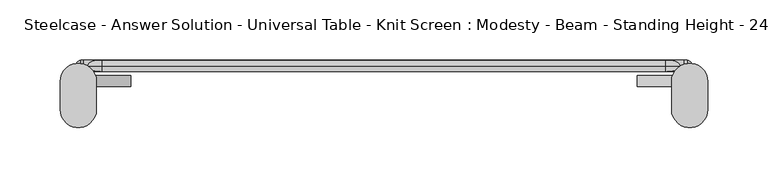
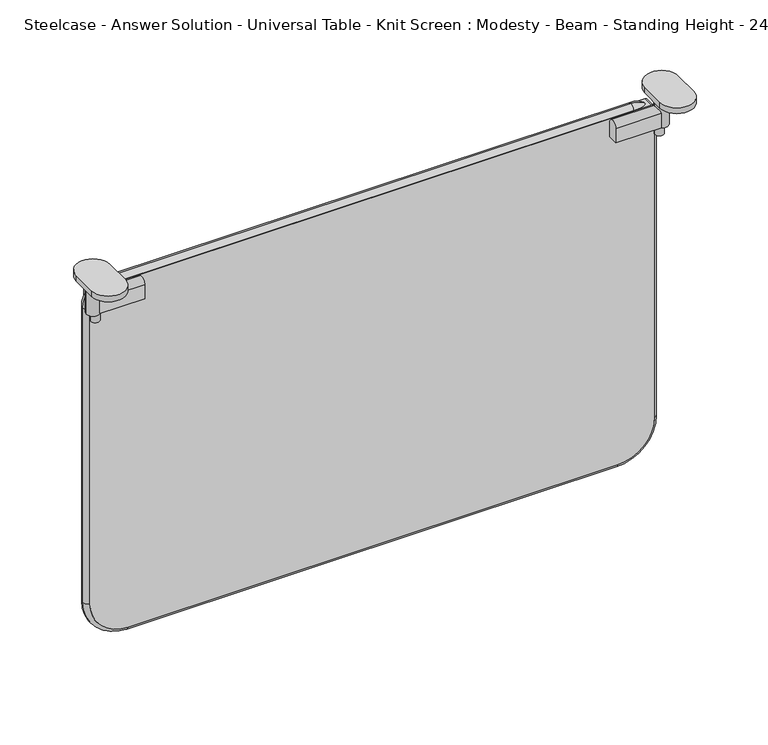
"""IFC4 building model written with IfcOpenShell, lengths in millimetres: furniture geometry, Steelcase - Answer Solution - Universal Table - Knit Screen : Modesty - Beam - Standing Height - 24in."""

from ifc_helpers import new_model, si_unit, point, frame, frame_2d, origin, place, context, project, spatial, polyline, circle_curve, ellipse_curve, trimmed, segment, composite_curve, outline, extrude, source, transform, mapped, element, save
from ifc_brep_helpers import plane_surface, cylinder_surface, revolved_surface, advanced_brep


def steelcase_answer_solution_universal_table_knit_screen_812e1500(model_context):
    return source(origin(), model_context, "Body", "SolidModel", [
        extrude(outline(composite_curve([segment(polyline([(-29.128946, 747.6716837), (-29.128946, 761.0329841)]), True, "CONTINUOUS"), segment(trimmed(circle_curve(frame_2d((-24.4350465, 761.0329841)), 4.6938995), [point((-29.128946, 761.0329841))], [point((-19.7411469, 761.0329841))], False, "CARTESIAN"), True, "CONTINUOUS"), segment(polyline([(-19.7411469, 761.0329841), (-19.7411469, 747.6716837), (-29.128946, 747.6716837)]), True, "CONTINUOUS")], self_intersect=False)), frame((511.8167228, 0.0, 0.0), z_axis=(1.0, 0.0, 0.0), x_axis=(0.0, 1.0, 0.0)), (0.0, 0.0, 1.0), 43.5285515),
        extrude(outline(composite_curve([segment(trimmed(circle_curve(frame_2d((553.4143327, -24.4352196)), 3.96875), [point((557.3830827, -24.4352196))], [point((549.4455827, -24.4352196))], False, "CARTESIAN"), True, "CONTINUOUS"), segment(trimmed(circle_curve(frame_2d((553.4143327, -24.4352196)), 3.96875), [point((549.4455827, -24.4352196))], [point((557.3830827, -24.4352196))], False, "CARTESIAN"), True, "CONTINUOUS")], self_intersect=False)), frame((0.0, 0.0, 739.5915626), z_axis=(0.0, 0.0, 1.0), x_axis=(1.0, 0.0, 0.0)), (0.0, 0.0, 1.0), 8.0801211),
        extrude(outline(composite_curve([segment(trimmed(circle_curve(frame_2d((555.3452743, -24.4352196)), 5.8800133), [point((561.2252876, -24.4352196))], [point((549.465261, -24.4352196))], False, "CARTESIAN"), True, "CONTINUOUS"), segment(trimmed(circle_curve(frame_2d((555.3452743, -24.4352196)), 5.8800133), [point((549.465261, -24.4352196))], [point((561.2252876, -24.4352196))], False, "CARTESIAN"), True, "CONTINUOUS")], self_intersect=False)), frame((0.0, 0.0, 747.6716837), z_axis=(0.0, 0.0, 1.0), x_axis=(1.0, 0.0, 0.0)), (0.0, 0.0, 1.0), 34.3007611),
        extrude(outline(composite_curve([segment(polyline([(570.401332, -24.6349615), (570.401332, -48.0866189)]), True, "CONTINUOUS"), segment(trimmed(circle_curve(frame_2d((555.345565, -48.0866189)), 15.0557671), [point((570.401332, -48.0866189))], [point((540.2897979, -48.0866189))], False, "CARTESIAN"), True, "CONTINUOUS"), segment(polyline([(540.2897979, -48.0866189), (540.2897979, -24.6349615)]), True, "CONTINUOUS"), segment(trimmed(circle_curve(frame_2d((555.345565, -24.6349615)), 15.0557671), [point((540.2897979, -24.6349615))], [point((570.401332, -24.6349615))], False, "CARTESIAN"), True, "CONTINUOUS")], self_intersect=False)), frame((0.0, 0.0, 781.9724448), z_axis=(0.0, 0.0, 1.0), x_axis=(1.0, 0.0, 0.0)), (0.0, 0.0, 1.0), 5.4275552),
        extrude(outline(composite_curve([segment(polyline([(-29.128946, 747.6716837), (-29.128946, 761.0329841)]), True, "CONTINUOUS"), segment(trimmed(circle_curve(frame_2d((-24.4350465, 761.0329841)), 4.6938995), [point((-29.128946, 761.0329841))], [point((-19.7411469, 761.0329841))], False, "CARTESIAN"), True, "CONTINUOUS"), segment(polyline([(-19.7411469, 761.0329841), (-19.7411469, 747.6716837), (-29.128946, 747.6716837)]), True, "CONTINUOUS")], self_intersect=False)), frame((47.6108911, 0.0, 0.0), z_axis=(1.0, 0.0, 0.0), x_axis=(0.0, 1.0, 0.0)), (0.0, 0.0, 1.0), 43.5285515),
        extrude(outline(composite_curve([segment(trimmed(circle_curve(frame_2d((49.5418327, -24.4352196)), 3.96875), [point((45.5730827, -24.4352196))], [point((53.5105827, -24.4352196))], False, "CARTESIAN"), True, "CONTINUOUS"), segment(trimmed(circle_curve(frame_2d((49.5418327, -24.4352196)), 3.96875), [point((53.5105827, -24.4352196))], [point((45.5730827, -24.4352196))], False, "CARTESIAN"), True, "CONTINUOUS")], self_intersect=False)), frame((0.0, 0.0, 739.5915626), z_axis=(0.0, 0.0, 1.0), x_axis=(1.0, 0.0, 0.0)), (0.0, 0.0, 1.0), 8.0801211),
        extrude(outline(composite_curve([segment(trimmed(circle_curve(frame_2d((47.6108911, -24.4352196)), 5.8800133), [point((41.7308778, -24.4352196))], [point((53.4909043, -24.4352196))], False, "CARTESIAN"), True, "CONTINUOUS"), segment(trimmed(circle_curve(frame_2d((47.6108911, -24.4352196)), 5.8800133), [point((53.4909043, -24.4352196))], [point((41.7308778, -24.4352196))], False, "CARTESIAN"), True, "CONTINUOUS")], self_intersect=False)), frame((0.0, 0.0, 747.6716837), z_axis=(0.0, 0.0, 1.0), x_axis=(1.0, 0.0, 0.0)), (0.0, 0.0, 1.0), 34.3007611),
        extrude(outline(composite_curve([segment(trimmed(circle_curve(frame_2d((47.6106004, -24.6349615)), 15.0557671), [point((32.5548333, -24.6349615))], [point((62.6663674, -24.6349615))], False, "CARTESIAN"), True, "CONTINUOUS"), segment(polyline([(62.6663674, -24.6349615), (62.6663674, -48.0866189)]), True, "CONTINUOUS"), segment(trimmed(circle_curve(frame_2d((47.6106004, -48.0866189)), 15.0557671), [point((62.6663674, -48.0866189))], [point((32.5548333, -48.0866189))], False, "CARTESIAN"), True, "CONTINUOUS"), segment(polyline([(32.5548333, -48.0866189), (32.5548333, -24.6349615)]), True, "CONTINUOUS")], self_intersect=False)), frame((0.0, 0.0, 781.9724448), z_axis=(0.0, 0.0, 1.0), x_axis=(1.0, 0.0, 0.0)), (0.0, 0.0, 1.0), 5.4275552),
        extrude(outline(composite_curve([segment(trimmed(circle_curve(frame_2d((465.8734529, 520.3969049)), 33.0004615), [point((432.8729913, 520.3969049))], [point((465.8734529, 553.3973664))], False, "CARTESIAN"), True, "CONTINUOUS"), segment(polyline([(465.8734529, 553.3973664), (759.2143507, 553.3973664)]), True, "CONTINUOUS"), segment(trimmed(circle_curve(frame_2d((759.2143507, 550.5924906)), 2.8048758), [point((759.2143507, 553.3973664))], [point((762.0192266, 550.5924906))], False, "CARTESIAN"), True, "CONTINUOUS"), segment(polyline([(762.0192266, 550.5924906), (762.0192266, 51.8743664)]), True, "CONTINUOUS"), segment(trimmed(circle_curve(frame_2d((759.7036591, 51.8743664)), 2.3155675), [point((762.0192266, 51.8743664))], [point((759.7036591, 49.5587989))], False, "CARTESIAN"), True, "CONTINUOUS"), segment(polyline([(759.7036591, 49.5587989), (466.7900738, 49.5587989)]), True, "CONTINUOUS"), segment(trimmed(circle_curve(frame_2d((466.7900738, 83.4758814)), 33.9170825), [point((466.7900738, 49.5587989))], [point((432.8729913, 83.4758814))], False, "CARTESIAN"), True, "CONTINUOUS"), segment(polyline([(432.8729913, 83.4758814), (432.8729913, 520.3969049)]), True, "CONTINUOUS")], self_intersect=False)), frame((0.0, -16.5783031, 0.0), z_axis=(0.0, 1.0, 0.0), x_axis=(0.0, 0.0, 1.0)), (0.0, 0.0, 1.0), 9.6878455),
        advanced_brep(
        [(45.5730839, -11.7343804, 744.5906591), (66.9873664, -11.7343804, 766.0049416), (66.9873664, -6.8904577, 762.0192266), (49.5587989, -6.8904577, 744.5906591), (49.5587989, -16.5783031, 744.5906591), (66.9873664, -16.5783031, 762.0192266), (49.5587989, -6.8904577, 466.7900738), (45.5730839, -11.7343804, 466.7900738), (49.5587989, -16.5783031, 466.7900738), (83.4758814, -11.7343804, 428.8872763), (83.4758814, -6.8904577, 432.8729913), (83.4758814, -16.5783031, 432.8729913), (520.3969049, -6.8904577, 432.8729913), (520.3969049, -11.7343804, 428.8872763), (520.3969049, -16.5783031, 432.8729913), (557.3830815, -11.7343804, 465.8734529), (553.3973664, -6.8904577, 465.8734529), (553.3973664, -16.5783031, 465.8734529), (553.3973664, -6.8904577, 744.1013507), (557.3830815, -11.7343804, 744.1013507), (553.3973664, -16.5783031, 744.1013507), (535.4794906, -11.7343804, 766.0049416), (535.4794906, -6.8904577, 762.0192266), (535.4794906, -16.5783031, 762.0192266)],
        [
            (0, 1, circle_curve(frame((66.9873664, -11.7343804, 744.5906591), z_axis=(0.0, 1.0, 0.0), x_axis=(0.0, 0.0, 1.0)), 21.4142825)),
            (1, 2, circle_curve(frame((66.9873664, -11.7343804, 761.0686238), z_axis=(-1.0, 0.0, 0.0), x_axis=(0.0, 0.0, 1.0)), 4.9363178)),
            (2, 3, circle_curve(frame((66.9873664, -6.8904577, 744.5906591), z_axis=(0.0, -1.0, 0.0), x_axis=(0.0, 0.0, 1.0)), 17.4285675)),
            (3, 0, circle_curve(frame((50.5094016, -11.7343804, 744.5906591), z_axis=(0.0, 0.0, 1.0), x_axis=(-1.0, 0.0, 0.0)), 4.9363178)),
            (4, 5, circle_curve(frame((66.9873664, -16.5783031, 744.5906591), z_axis=(0.0, 1.0, 0.0), x_axis=(0.0, 0.0, 1.0)), 17.4285675)),
            (5, 1, circle_curve(frame((66.9873664, -11.7343804, 761.0686238), z_axis=(-1.0, 0.0, 0.0), x_axis=(0.0, 0.0, 1.0)), 4.9363178)),
            (0, 4, circle_curve(frame((50.5094016, -11.7343804, 744.5906591), z_axis=(0.0, 0.0, 1.0), x_axis=(-1.0, 0.0, 0.0)), 4.9363178)),
            (2, 5),
            (4, 3),
            (3, 6),
            (6, 7, circle_curve(frame((50.5094016, -11.7343804, 466.7900738), z_axis=(0.0, 0.0, 1.0), x_axis=(-1.0, 0.0, 0.0)), 4.9363178)),
            (7, 0),
            (7, 8, circle_curve(frame((50.5094016, -11.7343804, 466.7900738), z_axis=(0.0, 0.0, 1.0), x_axis=(-1.0, 0.0, 0.0)), 4.9363178)),
            (8, 4),
            (8, 6),
            (9, 7, circle_curve(frame((83.4758814, -11.7343804, 466.7900738), z_axis=(0.0, 1.0, 0.0), x_axis=(-1.0, 0.0, 0.0)), 37.9027975)),
            (6, 10, circle_curve(frame((83.4758814, -6.8904577, 466.7900738), z_axis=(0.0, -1.0, 0.0), x_axis=(-1.0, 0.0, 0.0)), 33.9170825)),
            (10, 9, circle_curve(frame((83.4758814, -11.7343804, 433.823594), z_axis=(-1.0, 0.0, 0.0), x_axis=(0.0, 0.0, -1.0)), 4.9363178)),
            (11, 8, circle_curve(frame((83.4758814, -16.5783031, 466.7900738), z_axis=(0.0, 1.0, 0.0), x_axis=(-1.0, 0.0, 0.0)), 33.9170825)),
            (9, 11, circle_curve(frame((83.4758814, -11.7343804, 433.823594), z_axis=(-1.0, 0.0, 0.0), x_axis=(0.0, 0.0, -1.0)), 4.9363178)),
            (11, 10),
            (10, 12),
            (12, 13, circle_curve(frame((520.3969049, -11.7343804, 433.823594), z_axis=(-1.0, 0.0, 0.0), x_axis=(0.0, 0.0, -1.0)), 4.9363178)),
            (13, 9),
            (13, 14, circle_curve(frame((520.3969049, -11.7343804, 433.823594), z_axis=(-1.0, 0.0, 0.0), x_axis=(0.0, 0.0, -1.0)), 4.9363178)),
            (14, 11),
            (14, 12),
            (15, 13, circle_curve(frame((520.3969049, -11.7343804, 465.8734529), z_axis=(0.0, 1.0, 0.0), x_axis=(0.0, 0.0, -1.0)), 36.9861766)),
            (12, 16, circle_curve(frame((520.3969049, -6.8904577, 465.8734529), z_axis=(0.0, -1.0, 0.0), x_axis=(0.0, 0.0, -1.0)), 33.0004615)),
            (16, 15, circle_curve(frame((552.4467637, -11.7343804, 465.8734529), z_axis=(0.0, 0.0, -1.0), x_axis=(1.0, 0.0, 0.0)), 4.9363178)),
            (17, 14, circle_curve(frame((520.3969049, -16.5783031, 465.8734529), z_axis=(0.0, 1.0, 0.0), x_axis=(0.0, 0.0, -1.0)), 33.0004615)),
            (15, 17, circle_curve(frame((552.4467637, -11.7343804, 465.8734529), z_axis=(0.0, 0.0, -1.0), x_axis=(1.0, 0.0, 0.0)), 4.9363178)),
            (17, 16),
            (16, 18),
            (18, 19, circle_curve(frame((552.4467637, -11.7343804, 744.1013507), z_axis=(0.0, 0.0, -1.0), x_axis=(1.0, 0.0, 0.0)), 4.9363178)),
            (19, 15),
            (19, 20, circle_curve(frame((552.4467637, -11.7343804, 744.1013507), z_axis=(0.0, 0.0, -1.0), x_axis=(1.0, 0.0, 0.0)), 4.9363178)),
            (20, 17),
            (20, 18),
            (21, 19, circle_curve(frame((535.4794906, -11.7343804, 744.1013507), z_axis=(0.0, 1.0, 0.0), x_axis=(1.0, 0.0, 0.0)), 21.9035909)),
            (18, 22, circle_curve(frame((535.4794906, -6.8904577, 744.1013507), z_axis=(0.0, -1.0, 0.0), x_axis=(1.0, 0.0, 0.0)), 17.9178758)),
            (22, 21, circle_curve(frame((535.4794906, -11.7343804, 761.0686238), z_axis=(1.0, 0.0, 0.0), x_axis=(0.0, 0.0, 1.0)), 4.9363178)),
            (23, 20, circle_curve(frame((535.4794906, -16.5783031, 744.1013507), z_axis=(0.0, 1.0, 0.0), x_axis=(1.0, 0.0, 0.0)), 17.9178758)),
            (21, 23, circle_curve(frame((535.4794906, -11.7343804, 761.0686238), z_axis=(1.0, 0.0, 0.0), x_axis=(0.0, 0.0, 1.0)), 4.9363178)),
            (23, 22),
            (22, 2),
            (1, 21),
            (5, 23),
        ],
        [
            revolved_surface(trimmed(ellipse_curve(frame((66.9873664, -11.7343804, 761.0686238), z_axis=(1.0, 0.0, 0.0), x_axis=(0.0, 0.0, 1.0)), 4.9363178, 4.9363178), [point((66.9873664, -6.8904577, 762.0192266))], [point((66.9873664, -11.7343804, 766.0049416))], True, "CARTESIAN"), (66.9873664, -11.7343804, 744.5906591), (0.0, -1.0, 0.0)),
            revolved_surface(trimmed(ellipse_curve(frame((66.9873664, -11.7343804, 761.0686238), z_axis=(1.0, 0.0, 0.0), x_axis=(0.0, 0.0, 1.0)), 4.9363178, 4.9363178), [point((66.9873664, -11.7343804, 766.0049416))], [point((66.9873664, -16.5783031, 762.0192266))], True, "CARTESIAN"), (66.9873664, -11.7343804, 744.5906591), (0.0, -1.0, 0.0)),
            revolved_surface(polyline([(66.9873664, -16.5783031, 762.0192266), (66.9873664, -6.8904577, 762.0192266)]), (66.9873664, -11.7343804, 744.5906591), (0.0, -1.0, 0.0)),
            cylinder_surface(frame((50.5094016, -11.7343804, 744.5906591), z_axis=(0.0, 0.0, 1.0), x_axis=(-1.0, 0.0, 0.0)), 4.9363178),
            plane_surface(frame((49.5587989, -16.5783031, 744.5906591), z_axis=(1.0, 0.0, 0.0), x_axis=(0.0, 0.0, -1.0))),
            revolved_surface(trimmed(ellipse_curve(frame((50.5094016, -11.7343804, 466.7900738), z_axis=(0.0, 0.0, 1.0), x_axis=(-1.0, 0.0, 0.0)), 4.9363178, 4.9363178), [point((49.5587989, -6.8904577, 466.7900738))], [point((45.5730839, -11.7343804, 466.7900738))], True, "CARTESIAN"), (83.4758814, -11.7343804, 466.7900738), (0.0, -1.0, 0.0)),
            revolved_surface(trimmed(ellipse_curve(frame((50.5094016, -11.7343804, 466.7900738), z_axis=(0.0, 0.0, 1.0), x_axis=(-1.0, 0.0, 0.0)), 4.9363178, 4.9363178), [point((45.5730839, -11.7343804, 466.7900738))], [point((49.5587989, -16.5783031, 466.7900738))], True, "CARTESIAN"), (83.4758814, -11.7343804, 466.7900738), (0.0, -1.0, 0.0)),
            revolved_surface(polyline([(49.558798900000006, -16.5783031, 466.7900738), (49.558798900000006, -6.8904577, 466.7900738)]), (83.4758814, -11.7343804, 466.7900738), (0.0, -1.0, 0.0)),
            cylinder_surface(frame((83.4758814, -11.7343804, 433.823594), z_axis=(-1.0, 0.0, 0.0), x_axis=(0.0, 0.0, -1.0)), 4.9363178),
            plane_surface(frame((83.4758814, -16.5783031, 432.8729913), z_axis=(0.0, 0.0, 1.0), x_axis=(1.0, 0.0, 0.0))),
            revolved_surface(trimmed(ellipse_curve(frame((520.3969049, -11.7343804, 433.823594), z_axis=(-1.0, 0.0, 0.0), x_axis=(0.0, 0.0, -1.0)), 4.9363178, 4.9363178), [point((520.3969049, -6.8904577, 432.8729913))], [point((520.3969049, -11.7343804, 428.8872763))], True, "CARTESIAN"), (520.3969049, -11.7343804, 465.8734529), (0.0, -1.0, 0.0)),
            revolved_surface(trimmed(ellipse_curve(frame((520.3969049, -11.7343804, 433.823594), z_axis=(-1.0, 0.0, 0.0), x_axis=(0.0, 0.0, -1.0)), 4.9363178, 4.9363178), [point((520.3969049, -11.7343804, 428.8872763))], [point((520.3969049, -16.5783031, 432.8729913))], True, "CARTESIAN"), (520.3969049, -11.7343804, 465.8734529), (0.0, -1.0, 0.0)),
            revolved_surface(polyline([(520.3969049, -16.5783031, 432.87299140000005), (520.3969049, -6.8904577, 432.87299140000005)]), (520.3969049, -11.7343804, 465.8734529), (0.0, -1.0, 0.0)),
            cylinder_surface(frame((552.4467637, -11.7343804, 465.8734529), z_axis=(0.0, 0.0, -1.0), x_axis=(1.0, 0.0, 0.0)), 4.9363178),
            plane_surface(frame((553.3973664, -16.5783031, 465.8734529), z_axis=(-1.0, 0.0, 0.0), x_axis=(0.0, 0.0, 1.0))),
            revolved_surface(trimmed(ellipse_curve(frame((552.4467637, -11.7343804, 744.1013507), z_axis=(0.0, 0.0, -1.0), x_axis=(1.0, 0.0, 0.0)), 4.9363178, 4.9363178), [point((553.3973664, -6.8904577, 744.1013507))], [point((557.3830815, -11.7343804, 744.1013507))], True, "CARTESIAN"), (535.4794906, -11.7343804, 744.1013507), (0.0, -1.0, 0.0)),
            revolved_surface(trimmed(ellipse_curve(frame((552.4467637, -11.7343804, 744.1013507), z_axis=(0.0, 0.0, -1.0), x_axis=(1.0, 0.0, 0.0)), 4.9363178, 4.9363178), [point((557.3830815, -11.7343804, 744.1013507))], [point((553.3973664, -16.5783031, 744.1013507))], True, "CARTESIAN"), (535.4794906, -11.7343804, 744.1013507), (0.0, -1.0, 0.0)),
            revolved_surface(polyline([(553.3973664, -16.5783031, 744.1013507), (553.3973664, -6.8904577, 744.1013507)]), (535.4794906, -11.7343804, 744.1013507), (0.0, -1.0, 0.0)),
            cylinder_surface(frame((535.4794906, -11.7343804, 761.0686238), z_axis=(1.0, 0.0, 0.0), x_axis=(0.0, 0.0, 1.0)), 4.9363178),
            plane_surface(frame((535.4794906, -16.5783031, 762.0192266), z_axis=(0.0, 0.0, -1.0), x_axis=(-1.0, 0.0, 0.0))),
        ],
        [
            (0, [[1, 2, 3, 4]]),
            (1, [[5, 6, -1, 7]]),
            (2, [[-3, 8, -5, 9]]),
            (3, [[-4, 10, 11, 12]]),
            (3, [[-7, -12, 13, 14]]),
            (4, [[-9, -14, 15, -10]]),
            (5, [[16, -11, 17, 18]]),
            (6, [[19, -13, -16, 20]]),
            (7, [[-17, -15, -19, 21]]),
            (8, [[-18, 22, 23, 24]]),
            (8, [[-20, -24, 25, 26]]),
            (9, [[-21, -26, 27, -22]]),
            (10, [[28, -23, 29, 30]]),
            (11, [[31, -25, -28, 32]]),
            (12, [[-29, -27, -31, 33]]),
            (13, [[-30, 34, 35, 36]]),
            (13, [[-32, -36, 37, 38]]),
            (14, [[-33, -38, 39, -34]]),
            (15, [[40, -35, 41, 42]]),
            (16, [[43, -37, -40, 44]]),
            (17, [[-41, -39, -43, 45]]),
            (18, [[-42, 46, -2, 47]]),
            (18, [[-44, -47, -6, 48]]),
            (19, [[-45, -48, -8, -46]]),
        ],
    ),
    ])


if __name__ == "__main__":
    model = new_model("IFC4")
    model_context = context("Model", 3, world=origin())
    ifc_project = project(units=[si_unit("LENGTHUNIT", "METRE", prefix="MILLI")], contexts=[model_context])
    site = spatial("IfcSite", under=ifc_project)
    building = spatial("IfcBuilding", under=site)
    placement = place(None, origin())
    steelcase_answer_solution_universal_table_knit_screen_shape = steelcase_answer_solution_universal_table_knit_screen_812e1500(model_context)
    element("IfcFurniture", 1, ObjectType="Steelcase - Answer Solution - Universal Table - Knit Screen : Modesty - Beam - Standing Height - 24in", at=placement, inside=building, context=model_context, shape_type="MappedRepresentation", body=[
        mapped(steelcase_answer_solution_universal_table_knit_screen_shape, transform((0.0, 0.0, 0.0), x_axis=(1.0, 0.0, 0.0), y_axis=(0.0, 1.0, 0.0), z_axis=(0.0, 0.0, 1.0))),
    ])
    save(model, "model.ifc")
